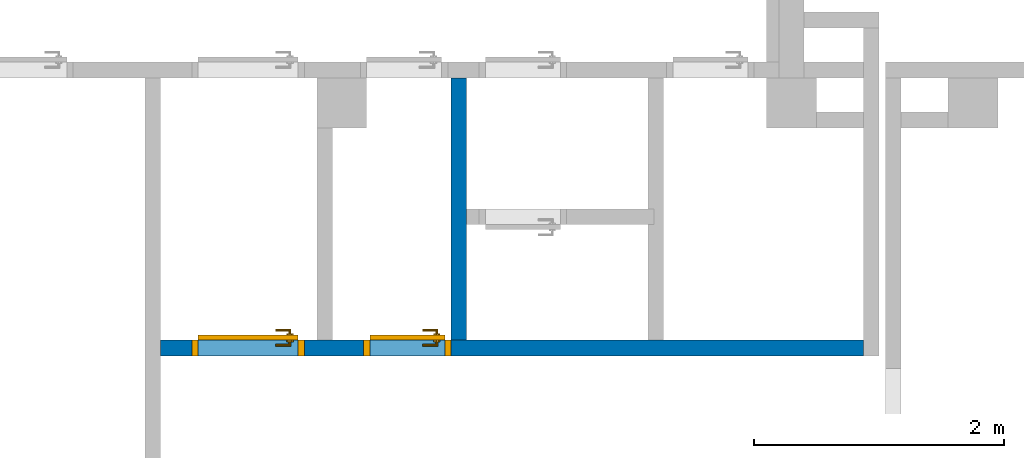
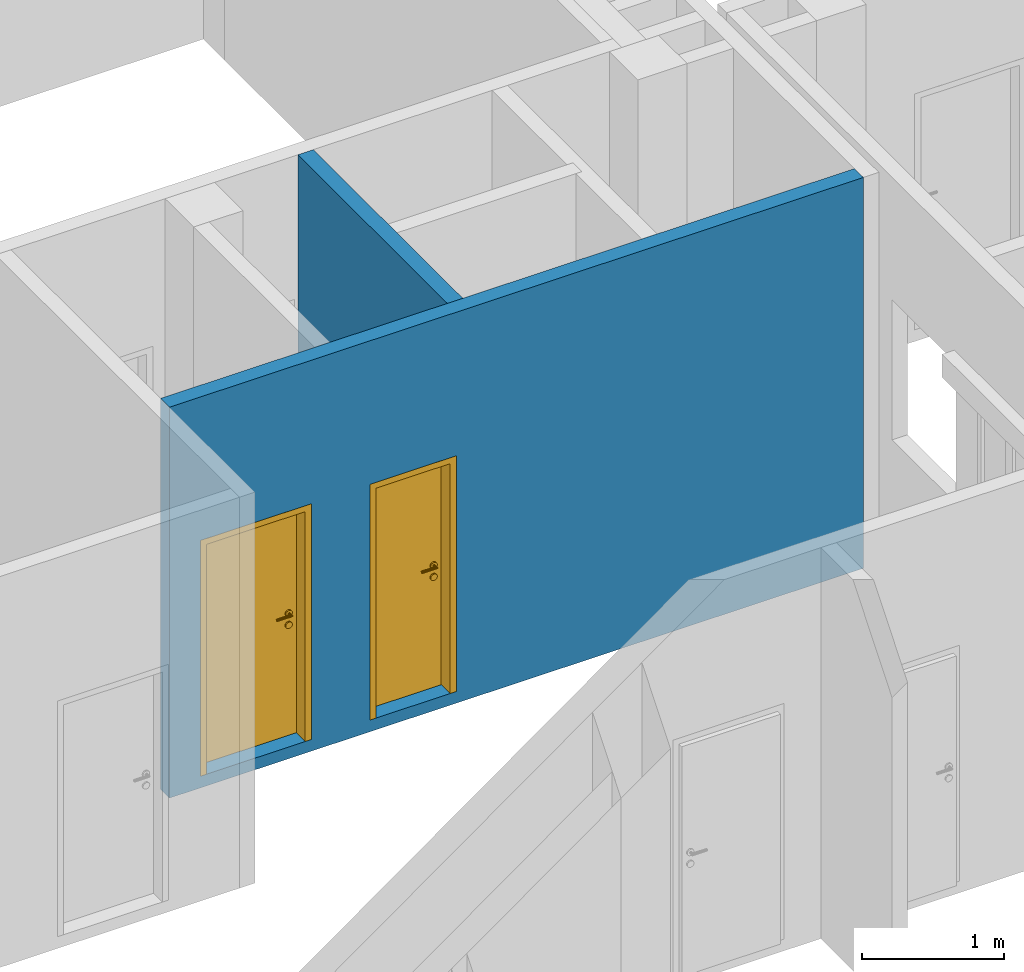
# One storey, part 14 of 37: 2 doors, 2 walls, 2 openings.
"""IFC4 building model written with IfcOpenShell, lengths in metres."""

from ifc_helpers import new_model, entity, si_unit, converted_unit, derived_unit, frame, frame_2d, origin, origin_with_axes, place, context, subcontext, project, spatial, polyline, rectangle, outline, extrude, closed_shell, open_shell, surface_model, source, transform, mapped, material, layer, layer_set, layer_usage, type_object, element, fill, save


model = new_model("IFC4")

# Units and contexts
model_context = context("Model", 3, precision=1e-05, world=origin())
body_context = subcontext(model_context, "Body", "Model", "MODEL_VIEW")
ifc_project = project(units=[si_unit("LENGTHUNIT", "METRE"), si_unit("AREAUNIT", "SQUARE_METRE"), si_unit("VOLUMEUNIT", "CUBIC_METRE"), si_unit("MASSUNIT", "GRAM", prefix="KILO"), converted_unit("PLANEANGLEUNIT", "DEGREE", entity("IfcPlaneAngleMeasure", 0.0174532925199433), si_unit("PLANEANGLEUNIT", "RADIAN"), dimensions=[0, 0, 0, 0, 0, 0, 0]), derived_unit("THERMALTRANSMITTANCEUNIT", [(si_unit("POWERUNIT", "WATT"), 1), (si_unit("THERMODYNAMICTEMPERATUREUNIT", "KELVIN"), -1), (si_unit("LENGTHUNIT", "METRE"), -2)]), derived_unit("VOLUMETRICFLOWRATEUNIT", [(si_unit("LENGTHUNIT", "METRE"), 3), (converted_unit("TIMEUNIT", "hour", entity("IfcTimeMeasure", 3600.0), si_unit("TIMEUNIT", "SECOND"), dimensions=[0, 0, 1, 0, 0, 0, 0]), -1), (si_unit("LENGTHUNIT", "METRE"), -1)])], contexts=[model_context])

# Site, building, storey
site_placement = place(None, origin())
site = spatial("IfcSite", under=ifc_project, at=site_placement, Name="3. ASŘ", CompositionType="ELEMENT")
building_placement = place(site_placement, origin())
building = spatial("IfcBuilding", under=site, at=building_placement, Name="Pavilon B", CompositionType="ELEMENT")
storey_placement = place(building_placement, origin())
storey = spatial("IfcBuildingStorey", under=building, at=storey_placement, Name="Půdorys 1.NP", CompositionType="ELEMENT", Elevation=0.0)

# Wall
ifc_material_1 = material(Name="ZDIVO Z CDm")
ifc_layer_1 = layer(ifc_material_1, 0.125)
ifc_layer_set_1 = layer_set([ifc_layer_1])
ifc_layer_usage_1 = layer_usage(ifc_layer_set_1, "AXIS2", "POSITIVE", 0.0)
wall_1_placement = place(storey_placement, frame((29.075, -21.4, -0.1), z_axis=(0.0, 0.0, 1.0), x_axis=(0.0, -1.0, 0.0)))
element("IfcWall", 1, at=wall_1_placement, inside=storey, material=ifc_layer_usage_1, Name="ZDIVO Z CDm", context=body_context, shape_type="SweptSolid", body=[
    extrude(rectangle(XDim=2.09999999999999, YDim=0.125, at=frame_2d((1.05, 0.0625), x_axis=(1.0, 0.0))), origin_with_axes(), (0.0, 0.0, 1.0), 3.35),
])

# Wall, openings, doors
ifc_material_2 = material(Name="ZDIVO Z CDm")
ifc_layer_2 = layer(ifc_material_2, 0.125)
ifc_layer_set_2 = layer_set([ifc_layer_2])
ifc_layer_usage_2 = layer_usage(ifc_layer_set_2, "AXIS2", "POSITIVE", 0.0)
wall_2_placement = place(storey_placement, frame((32.375, -23.5, -0.1), z_axis=(0.0, 0.0, 1.0), x_axis=(-1.0, 0.0, 0.0)))
wall_2 = element("IfcWall", 2, at=wall_2_placement, inside=storey, material=ifc_layer_usage_2, Name="ZDIVO Z CDm", context=body_context, shape_type="SweptSolid", body=[
    extrude(rectangle(XDim=5.625, YDim=0.125, at=frame_2d((2.8125, 0.0625), x_axis=(1.0, 0.0))), origin_with_axes(), (0.0, 0.0, 1.0), 3.35),
])
opening_1_placement = place(wall_2_placement, frame((4.47499999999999, 0.0, 0.1), z_axis=(0.0, 1.0, 0.0), x_axis=(0.0, 0.0, 1.0)))
opening_1 = element("IfcOpeningElement", 3, at=opening_1_placement, cuts=wall_2, Name="Dveřní otvor", ObjectType="Opening", context=body_context, shape_type="SweptSolid", body=[
    extrude(outline(polyline([(0.0, 0.9), (2.02, 0.9), (2.02, 0.0), (0.0, 0.0), (0.0, 0.9)])), origin_with_axes(), (0.0, 0.0, 1.0), 0.125),
])
opening_2_placement = place(wall_2_placement, frame((3.3, 0.0, 0.1), z_axis=(0.0, 1.0, 0.0), x_axis=(0.0, 0.0, 1.0)))
opening_2 = element("IfcOpeningElement", 4, at=opening_2_placement, cuts=wall_2, Name="Dveřní otvor", ObjectType="Opening", context=body_context, shape_type="SweptSolid", body=[
    extrude(outline(polyline([(0.0, 0.7), (2.02, 0.7), (2.02, 0.0), (0.0, 0.0), (0.0, 0.7)])), origin_with_axes(), (0.0, 0.0, 1.0), 0.125),
])
door_type_1 = type_object("IfcDoorType", Name="D101", OperationType="NOTDEFINED", ParameterTakesPrecedence=False, PredefinedType="DOOR")
shared_shape_1 = source(origin_with_axes(), body_context, "Body", "SurfaceModel", [
    surface_model("IfcShellBasedSurfaceModel", [(0.0, 0.125, 2.02), (0.0, 0.125, -7.65404249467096e-18), (0.05, 0.125, -7.65404249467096e-18), (0.05, 0.125, 2.02), (0.0, 0.0, 7.65404249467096e-18), (0.0, 2.41584530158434e-16, 2.02), (0.05, 2.41584530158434e-16, 2.02), (0.05, 0.0, 7.65404249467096e-18)], [closed_shell([[[0, 1, 2, 3]], [[4, 5, 6, 7]], [[1, 0, 5, 4]], [[2, 1, 4, 7]], [[3, 2, 7, 6]], [[0, 3, 6, 5]]], orient=[[False], [False], [False], [False], [False], [False]])]),
    surface_model("IfcShellBasedSurfaceModel", [(0.65, 0.125, 2.02), (0.65, 0.125, -7.65404249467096e-18), (0.7, 0.125, -7.65404249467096e-18), (0.7, 0.125, 2.02), (0.65, 0.0, 7.65404249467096e-18), (0.65, 2.41584530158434e-16, 2.02), (0.7, 2.41584530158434e-16, 2.02), (0.7, 0.0, 7.65404249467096e-18)], [closed_shell([[[0, 1, 2, 3]], [[4, 5, 6, 7]], [[1, 0, 5, 4]], [[2, 1, 4, 7]], [[3, 2, 7, 6]], [[0, 3, 6, 5]]], orient=[[False], [False], [False], [False], [False], [False]])]),
    surface_model("IfcShellBasedSurfaceModel", [(0.05, 0.125, 2.02), (0.05, 0.125, 1.97), (0.65, 0.125, 1.97), (0.65, 0.125, 2.02), (0.05, 2.41584530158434e-16, 1.97), (0.05, 2.41584530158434e-16, 2.02), (0.65, 2.41584530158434e-16, 2.02), (0.65, 2.41584530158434e-16, 1.97)], [closed_shell([[[0, 1, 2, 3]], [[4, 5, 6, 7]], [[1, 0, 5, 4]], [[2, 1, 4, 7]], [[3, 2, 7, 6]], [[0, 3, 6, 5]]], orient=[[False], [False], [False], [False], [False], [False]])]),
    surface_model("IfcShellBasedSurfaceModel", [(0.05, 0.165, 1.97), (0.05, 0.165, -1.25526296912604e-17), (0.65, 0.165, -1.25526296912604e-17), (0.65, 0.165, 1.97), (0.05, 0.125, -7.65404249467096e-18), (0.05, 0.125, 1.97), (0.65, 0.125, 1.97), (0.65, 0.125, -7.65404249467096e-18)], [closed_shell([[[0, 1, 2, 3]], [[4, 5, 6, 7]], [[1, 0, 5, 4]], [[2, 1, 4, 7]], [[3, 2, 7, 6]], [[0, 3, 6, 5]]], orient=[[False], [False], [False], [False], [False], [False]])]),
    surface_model("IfcShellBasedSurfaceModel", [(0.608815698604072, 0.125, 0.93625), (0.6125, 0.125, 0.95), (0.608815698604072, 0.125, 0.96375), (0.59875, 0.125, 0.973815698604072), (0.585, 0.125, 0.9775), (0.57125, 0.125, 0.973815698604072), (0.561184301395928, 0.125, 0.96375), (0.5575, 0.125, 0.95), (0.561184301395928, 0.125, 0.93625), (0.57125, 0.125, 0.926184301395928), (0.585, 0.125, 0.9225), (0.59875, 0.125, 0.926184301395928), (0.6125, 0.1125, 0.95), (0.608815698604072, 0.1125, 0.93625), (0.59875, 0.1125, 0.926184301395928), (0.585, 0.1125, 0.9225), (0.57125, 0.1125, 0.926184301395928), (0.561184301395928, 0.1125, 0.93625), (0.5575, 0.1125, 0.95), (0.561184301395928, 0.1125, 0.96375), (0.57125, 0.1125, 0.973815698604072), (0.585, 0.1125, 0.9775), (0.59875, 0.1125, 0.973815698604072), (0.608815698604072, 0.1125, 0.96375)], [closed_shell([[[0, 1, 2, 3, 4, 5, 6, 7, 8, 9, 10, 11]], [[12, 13, 14, 15, 16, 17, 18, 19, 20, 21, 22, 23]], [[1, 0, 13, 12]], [[2, 1, 12, 23]], [[3, 2, 23, 22]], [[4, 3, 22, 21]], [[5, 4, 21, 20]], [[6, 5, 20, 19]], [[7, 6, 19, 18]], [[8, 7, 18, 17]], [[9, 8, 17, 16]], [[10, 9, 16, 15]], [[11, 10, 15, 14]], [[0, 11, 14, 13]]], orient=[[False], [False], [False], [False], [False], [False], [False], [False], [False], [False], [False], [False], [False], [False]])]),
    surface_model("IfcShellBasedSurfaceModel", [(0.608815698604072, 0.125, 1.03625), (0.6125, 0.125, 1.05), (0.608815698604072, 0.125, 1.06375), (0.59875, 0.125, 1.07381569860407), (0.585, 0.125, 1.0775), (0.57125, 0.125, 1.07381569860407), (0.561184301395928, 0.125, 1.06375), (0.5575, 0.125, 1.05), (0.561184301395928, 0.125, 1.03625), (0.57125, 0.125, 1.02618430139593), (0.585, 0.125, 1.0225), (0.59875, 0.125, 1.02618430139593), (0.6125, 0.1125, 1.05), (0.608815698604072, 0.1125, 1.03625), (0.59875, 0.1125, 1.02618430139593), (0.585, 0.1125, 1.0225), (0.57125, 0.1125, 1.02618430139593), (0.561184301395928, 0.1125, 1.03625), (0.5575, 0.1125, 1.05), (0.561184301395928, 0.1125, 1.06375), (0.57125, 0.1125, 1.07381569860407), (0.585, 0.1125, 1.0775), (0.59875, 0.1125, 1.07381569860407), (0.608815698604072, 0.1125, 1.06375)], [closed_shell([[[0, 1, 2, 3, 4, 5, 6, 7, 8, 9, 10, 11]], [[12, 13, 14, 15, 16, 17, 18, 19, 20, 21, 22, 23]], [[1, 0, 13, 12]], [[2, 1, 12, 23]], [[3, 2, 23, 22]], [[4, 3, 22, 21]], [[5, 4, 21, 20]], [[6, 5, 20, 19]], [[7, 6, 19, 18]], [[8, 7, 18, 17]], [[9, 8, 17, 16]], [[10, 9, 16, 15]], [[11, 10, 15, 14]], [[0, 11, 14, 13]]], orient=[[False], [False], [False], [False], [False], [False], [False], [False], [False], [False], [False], [False], [False], [False]])]),
    surface_model("IfcShellBasedSurfaceModel", [(0.585, 0.125, 1.06), (0.58, 0.125, 1.05866025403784), (0.576339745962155, 0.125, 1.055), (0.575, 0.125, 1.05), (0.576339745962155, 0.125, 1.045), (0.58, 0.125, 1.04133974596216), (0.585, 0.125, 1.04), (0.59, 0.125, 1.04133974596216), (0.593660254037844, 0.125, 1.045), (0.595, 0.125, 1.05), (0.593660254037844, 0.125, 1.055), (0.59, 0.125, 1.05866025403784), (0.59, 0.0800000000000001, 1.05866025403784), (0.585, 0.0850000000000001, 1.06), (0.593660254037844, 0.0763397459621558, 1.055), (0.595, 0.0750000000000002, 1.05), (0.593660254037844, 0.0763397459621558, 1.045), (0.59, 0.0800000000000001, 1.04133974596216), (0.585, 0.0850000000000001, 1.04), (0.58, 0.0900000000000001, 1.04133974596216), (0.576339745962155, 0.0936602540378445, 1.045), (0.575, 0.0950000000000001, 1.05), (0.576339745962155, 0.0936602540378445, 1.055), (0.58, 0.0900000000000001, 1.05866025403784), (0.47, 0.0800000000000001, 1.05866025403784), (0.47, 0.0850000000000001, 1.06), (0.47, 0.0763397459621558, 1.055), (0.47, 0.0750000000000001, 1.05), (0.47, 0.0763397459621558, 1.045), (0.47, 0.0800000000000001, 1.04133974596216), (0.47, 0.0850000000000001, 1.04), (0.47, 0.0900000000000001, 1.04133974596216), (0.47, 0.0936602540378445, 1.045), (0.47, 0.0950000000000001, 1.05), (0.47, 0.0936602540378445, 1.055), (0.47, 0.0900000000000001, 1.05866025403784)], [open_shell([[[0, 1, 2, 3, 4, 5, 6, 7, 8, 9, 10, 11]], [[0, 11, 12, 13]], [[11, 10, 14, 12]], [[10, 9, 15, 14]], [[9, 8, 16, 15]], [[8, 7, 17, 16]], [[7, 6, 18, 17]], [[6, 5, 19, 18]], [[5, 4, 20, 19]], [[4, 3, 21, 20]], [[3, 2, 22, 21]], [[2, 1, 23, 22]], [[1, 0, 13, 23]], [[13, 12, 24, 25]], [[12, 14, 26, 24]], [[14, 15, 27, 26]], [[15, 16, 28, 27]], [[16, 17, 29, 28]], [[17, 18, 30, 29]], [[18, 19, 31, 30]], [[19, 20, 32, 31]], [[20, 21, 33, 32]], [[21, 22, 34, 33]], [[22, 23, 35, 34]], [[23, 13, 25, 35]]], orient=[[False], [False], [False], [False], [False], [False], [False], [False], [False], [False], [False], [False], [False], [False], [False], [False], [False], [False], [False], [False], [False], [False], [False], [False], [False]])]),
    surface_model("IfcShellBasedSurfaceModel", [(0.608815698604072, 0.165, 0.93625), (0.59875, 0.165, 0.926184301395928), (0.585, 0.165, 0.9225), (0.57125, 0.165, 0.926184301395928), (0.561184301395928, 0.165, 0.93625), (0.5575, 0.165, 0.95), (0.561184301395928, 0.165, 0.96375), (0.57125, 0.165, 0.973815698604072), (0.585, 0.165, 0.9775), (0.59875, 0.165, 0.973815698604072), (0.608815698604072, 0.165, 0.96375), (0.6125, 0.165, 0.95), (0.6125, 0.1775, 0.95), (0.608815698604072, 0.1775, 0.96375), (0.59875, 0.1775, 0.973815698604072), (0.585, 0.1775, 0.9775), (0.57125, 0.1775, 0.973815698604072), (0.561184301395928, 0.1775, 0.96375), (0.5575, 0.1775, 0.95), (0.561184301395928, 0.1775, 0.93625), (0.57125, 0.1775, 0.926184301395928), (0.585, 0.1775, 0.9225), (0.59875, 0.1775, 0.926184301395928), (0.608815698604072, 0.1775, 0.93625)], [closed_shell([[[0, 1, 2, 3, 4, 5, 6, 7, 8, 9, 10, 11]], [[12, 13, 14, 15, 16, 17, 18, 19, 20, 21, 22, 23]], [[11, 12, 23, 0]], [[10, 13, 12, 11]], [[9, 14, 13, 10]], [[8, 15, 14, 9]], [[7, 16, 15, 8]], [[6, 17, 16, 7]], [[5, 18, 17, 6]], [[4, 19, 18, 5]], [[3, 20, 19, 4]], [[2, 21, 20, 3]], [[1, 22, 21, 2]], [[0, 23, 22, 1]]], orient=[[False], [False], [False], [False], [False], [False], [False], [False], [False], [False], [False], [False], [False], [False]])]),
    surface_model("IfcShellBasedSurfaceModel", [(0.608815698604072, 0.165, 1.03625), (0.59875, 0.165, 1.02618430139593), (0.585, 0.165, 1.0225), (0.57125, 0.165, 1.02618430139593), (0.561184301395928, 0.165, 1.03625), (0.5575, 0.165, 1.05), (0.561184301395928, 0.165, 1.06375), (0.57125, 0.165, 1.07381569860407), (0.585, 0.165, 1.0775), (0.59875, 0.165, 1.07381569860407), (0.608815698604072, 0.165, 1.06375), (0.6125, 0.165, 1.05), (0.6125, 0.1775, 1.05), (0.608815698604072, 0.1775, 1.06375), (0.59875, 0.1775, 1.07381569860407), (0.585, 0.1775, 1.0775), (0.57125, 0.1775, 1.07381569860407), (0.561184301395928, 0.1775, 1.06375), (0.5575, 0.1775, 1.05), (0.561184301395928, 0.1775, 1.03625), (0.57125, 0.1775, 1.02618430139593), (0.585, 0.1775, 1.0225), (0.59875, 0.1775, 1.02618430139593), (0.608815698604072, 0.1775, 1.03625)], [closed_shell([[[0, 1, 2, 3, 4, 5, 6, 7, 8, 9, 10, 11]], [[12, 13, 14, 15, 16, 17, 18, 19, 20, 21, 22, 23]], [[11, 12, 23, 0]], [[10, 13, 12, 11]], [[9, 14, 13, 10]], [[8, 15, 14, 9]], [[7, 16, 15, 8]], [[6, 17, 16, 7]], [[5, 18, 17, 6]], [[4, 19, 18, 5]], [[3, 20, 19, 4]], [[2, 21, 20, 3]], [[1, 22, 21, 2]], [[0, 23, 22, 1]]], orient=[[False], [False], [False], [False], [False], [False], [False], [False], [False], [False], [False], [False], [False], [False]])]),
    surface_model("IfcShellBasedSurfaceModel", [(0.585, 0.165, 1.06), (0.59, 0.165, 1.05866025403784), (0.593660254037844, 0.165, 1.055), (0.595, 0.165, 1.05), (0.593660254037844, 0.165, 1.045), (0.59, 0.165, 1.04133974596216), (0.585, 0.165, 1.04), (0.58, 0.165, 1.04133974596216), (0.576339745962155, 0.165, 1.045), (0.575, 0.165, 1.05), (0.576339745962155, 0.165, 1.055), (0.58, 0.165, 1.05866025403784), (0.585, 0.205, 1.06), (0.59, 0.21, 1.05866025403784), (0.593660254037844, 0.213660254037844, 1.055), (0.595, 0.215, 1.05), (0.593660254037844, 0.213660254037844, 1.045), (0.59, 0.21, 1.04133974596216), (0.585, 0.205, 1.04), (0.58, 0.2, 1.04133974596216), (0.576339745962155, 0.196339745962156, 1.045), (0.575, 0.195, 1.05), (0.576339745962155, 0.196339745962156, 1.055), (0.58, 0.2, 1.05866025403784), (0.47, 0.205, 1.06), (0.47, 0.21, 1.05866025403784), (0.47, 0.213660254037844, 1.055), (0.47, 0.215, 1.05), (0.47, 0.213660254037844, 1.045), (0.47, 0.21, 1.04133974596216), (0.47, 0.205, 1.04), (0.47, 0.2, 1.04133974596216), (0.47, 0.196339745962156, 1.045), (0.47, 0.195, 1.05), (0.47, 0.196339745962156, 1.055), (0.47, 0.2, 1.05866025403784)], [open_shell([[[0, 1, 2, 3, 4, 5, 6, 7, 8, 9, 10, 11]], [[0, 12, 13, 1]], [[1, 13, 14, 2]], [[2, 14, 15, 3]], [[3, 15, 16, 4]], [[4, 16, 17, 5]], [[5, 17, 18, 6]], [[6, 18, 19, 7]], [[7, 19, 20, 8]], [[8, 20, 21, 9]], [[9, 21, 22, 10]], [[10, 22, 23, 11]], [[11, 23, 12, 0]], [[12, 24, 25, 13]], [[13, 25, 26, 14]], [[14, 26, 27, 15]], [[15, 27, 28, 16]], [[16, 28, 29, 17]], [[17, 29, 30, 18]], [[18, 30, 31, 19]], [[19, 31, 32, 20]], [[20, 32, 33, 21]], [[21, 33, 34, 22]], [[22, 34, 35, 23]], [[23, 35, 24, 12]]], orient=[[False], [False], [False], [False], [False], [False], [False], [False], [False], [False], [False], [False], [False], [False], [False], [False], [False], [False], [False], [False], [False], [False], [False], [False], [False]])]),
])
door_1_placement = place(opening_2_placement, frame((0.0, 0.7, 0.125), z_axis=(1.0, 0.0, 0.0), x_axis=(0.0, -1.0, 2.44929359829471e-16)))
door_1 = element("IfcDoor", 5, at=door_1_placement, inside=storey, type_object=door_type_1, Name="D101", OverallHeight=2.02, OverallWidth=0.7, context=body_context, shape_type="MappedRepresentation", body=[
    mapped(shared_shape_1, transform((0.0, 0.0, 0.0), x_axis=(1.0, 0.0, 0.0), y_axis=(0.0, 1.0, 0.0), z_axis=(0.0, 0.0, 1.0), scale=1.0)),
])
fill(opening_2, door_1)
door_type_2 = type_object("IfcDoorType", Name="D101", OperationType="NOTDEFINED", ParameterTakesPrecedence=False, PredefinedType="DOOR")
shared_shape_2 = source(origin_with_axes(), body_context, "Body", "SurfaceModel", [
    surface_model("IfcShellBasedSurfaceModel", [(0.0, 0.125, 2.02), (0.0, 0.125, -7.65404249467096e-18), (0.05, 0.125, -7.65404249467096e-18), (0.05, 0.125, 2.02), (0.0, 0.0, 7.65404249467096e-18), (0.0, 2.41584530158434e-16, 2.02), (0.05, 2.41584530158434e-16, 2.02), (0.05, 0.0, 7.65404249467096e-18)], [closed_shell([[[0, 1, 2, 3]], [[4, 5, 6, 7]], [[1, 0, 5, 4]], [[2, 1, 4, 7]], [[3, 2, 7, 6]], [[0, 3, 6, 5]]], orient=[[False], [False], [False], [False], [False], [False]])]),
    surface_model("IfcShellBasedSurfaceModel", [(0.85, 0.125, 2.02), (0.85, 0.125, -7.65404249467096e-18), (0.9, 0.125, -7.65404249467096e-18), (0.9, 0.125, 2.02), (0.85, 0.0, 7.65404249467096e-18), (0.85, 2.41584530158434e-16, 2.02), (0.9, 2.41584530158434e-16, 2.02), (0.9, 0.0, 7.65404249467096e-18)], [closed_shell([[[0, 1, 2, 3]], [[4, 5, 6, 7]], [[1, 0, 5, 4]], [[2, 1, 4, 7]], [[3, 2, 7, 6]], [[0, 3, 6, 5]]], orient=[[False], [False], [False], [False], [False], [False]])]),
    surface_model("IfcShellBasedSurfaceModel", [(0.05, 0.125, 2.02), (0.05, 0.125, 1.97), (0.85, 0.125, 1.97), (0.85, 0.125, 2.02), (0.05, 2.41584530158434e-16, 1.97), (0.05, 2.41584530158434e-16, 2.02), (0.85, 2.41584530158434e-16, 2.02), (0.85, 2.41584530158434e-16, 1.97)], [closed_shell([[[0, 1, 2, 3]], [[4, 5, 6, 7]], [[1, 0, 5, 4]], [[2, 1, 4, 7]], [[3, 2, 7, 6]], [[0, 3, 6, 5]]], orient=[[False], [False], [False], [False], [False], [False]])]),
    surface_model("IfcShellBasedSurfaceModel", [(0.05, 0.165, 1.97), (0.05, 0.165, -1.25526296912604e-17), (0.85, 0.165, -1.25526296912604e-17), (0.85, 0.165, 1.97), (0.05, 0.125, -7.65404249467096e-18), (0.05, 0.125, 1.97), (0.85, 0.125, 1.97), (0.85, 0.125, -7.65404249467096e-18)], [closed_shell([[[0, 1, 2, 3]], [[4, 5, 6, 7]], [[1, 0, 5, 4]], [[2, 1, 4, 7]], [[3, 2, 7, 6]], [[0, 3, 6, 5]]], orient=[[False], [False], [False], [False], [False], [False]])]),
    surface_model("IfcShellBasedSurfaceModel", [(0.808815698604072, 0.125, 0.93625), (0.8125, 0.125, 0.95), (0.808815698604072, 0.125, 0.96375), (0.79875, 0.125, 0.973815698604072), (0.785, 0.125, 0.9775), (0.77125, 0.125, 0.973815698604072), (0.761184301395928, 0.125, 0.96375), (0.7575, 0.125, 0.95), (0.761184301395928, 0.125, 0.93625), (0.77125, 0.125, 0.926184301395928), (0.785, 0.125, 0.9225), (0.79875, 0.125, 0.926184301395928), (0.8125, 0.1125, 0.95), (0.808815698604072, 0.1125, 0.93625), (0.79875, 0.1125, 0.926184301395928), (0.785, 0.1125, 0.9225), (0.77125, 0.1125, 0.926184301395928), (0.761184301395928, 0.1125, 0.93625), (0.7575, 0.1125, 0.95), (0.761184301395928, 0.1125, 0.96375), (0.77125, 0.1125, 0.973815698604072), (0.785, 0.1125, 0.9775), (0.79875, 0.1125, 0.973815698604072), (0.808815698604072, 0.1125, 0.96375)], [closed_shell([[[0, 1, 2, 3, 4, 5, 6, 7, 8, 9, 10, 11]], [[12, 13, 14, 15, 16, 17, 18, 19, 20, 21, 22, 23]], [[1, 0, 13, 12]], [[2, 1, 12, 23]], [[3, 2, 23, 22]], [[4, 3, 22, 21]], [[5, 4, 21, 20]], [[6, 5, 20, 19]], [[7, 6, 19, 18]], [[8, 7, 18, 17]], [[9, 8, 17, 16]], [[10, 9, 16, 15]], [[11, 10, 15, 14]], [[0, 11, 14, 13]]], orient=[[False], [False], [False], [False], [False], [False], [False], [False], [False], [False], [False], [False], [False], [False]])]),
    surface_model("IfcShellBasedSurfaceModel", [(0.808815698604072, 0.125, 1.03625), (0.8125, 0.125, 1.05), (0.808815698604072, 0.125, 1.06375), (0.79875, 0.125, 1.07381569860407), (0.785, 0.125, 1.0775), (0.77125, 0.125, 1.07381569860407), (0.761184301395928, 0.125, 1.06375), (0.7575, 0.125, 1.05), (0.761184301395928, 0.125, 1.03625), (0.77125, 0.125, 1.02618430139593), (0.785, 0.125, 1.0225), (0.79875, 0.125, 1.02618430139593), (0.8125, 0.1125, 1.05), (0.808815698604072, 0.1125, 1.03625), (0.79875, 0.1125, 1.02618430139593), (0.785, 0.1125, 1.0225), (0.77125, 0.1125, 1.02618430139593), (0.761184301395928, 0.1125, 1.03625), (0.7575, 0.1125, 1.05), (0.761184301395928, 0.1125, 1.06375), (0.77125, 0.1125, 1.07381569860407), (0.785, 0.1125, 1.0775), (0.79875, 0.1125, 1.07381569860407), (0.808815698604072, 0.1125, 1.06375)], [closed_shell([[[0, 1, 2, 3, 4, 5, 6, 7, 8, 9, 10, 11]], [[12, 13, 14, 15, 16, 17, 18, 19, 20, 21, 22, 23]], [[1, 0, 13, 12]], [[2, 1, 12, 23]], [[3, 2, 23, 22]], [[4, 3, 22, 21]], [[5, 4, 21, 20]], [[6, 5, 20, 19]], [[7, 6, 19, 18]], [[8, 7, 18, 17]], [[9, 8, 17, 16]], [[10, 9, 16, 15]], [[11, 10, 15, 14]], [[0, 11, 14, 13]]], orient=[[False], [False], [False], [False], [False], [False], [False], [False], [False], [False], [False], [False], [False], [False]])]),
    surface_model("IfcShellBasedSurfaceModel", [(0.785, 0.125, 1.06), (0.78, 0.125, 1.05866025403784), (0.776339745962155, 0.125, 1.055), (0.775, 0.125, 1.05), (0.776339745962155, 0.125, 1.045), (0.78, 0.125, 1.04133974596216), (0.785, 0.125, 1.04), (0.79, 0.125, 1.04133974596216), (0.793660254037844, 0.125, 1.045), (0.795, 0.125, 1.05), (0.793660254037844, 0.125, 1.055), (0.79, 0.125, 1.05866025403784), (0.79, 0.0800000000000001, 1.05866025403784), (0.785, 0.0850000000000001, 1.06), (0.793660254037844, 0.0763397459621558, 1.055), (0.795, 0.0750000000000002, 1.05), (0.793660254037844, 0.0763397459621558, 1.045), (0.79, 0.0800000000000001, 1.04133974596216), (0.785, 0.0850000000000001, 1.04), (0.78, 0.0900000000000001, 1.04133974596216), (0.776339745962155, 0.0936602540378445, 1.045), (0.775, 0.0950000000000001, 1.05), (0.776339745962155, 0.0936602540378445, 1.055), (0.78, 0.0900000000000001, 1.05866025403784), (0.67, 0.0800000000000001, 1.05866025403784), (0.67, 0.0850000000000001, 1.06), (0.67, 0.0763397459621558, 1.055), (0.67, 0.0750000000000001, 1.05), (0.67, 0.0763397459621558, 1.045), (0.67, 0.0800000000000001, 1.04133974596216), (0.67, 0.0850000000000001, 1.04), (0.67, 0.0900000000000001, 1.04133974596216), (0.67, 0.0936602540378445, 1.045), (0.67, 0.0950000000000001, 1.05), (0.67, 0.0936602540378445, 1.055), (0.67, 0.0900000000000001, 1.05866025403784)], [open_shell([[[0, 1, 2, 3, 4, 5, 6, 7, 8, 9, 10, 11]], [[0, 11, 12, 13]], [[11, 10, 14, 12]], [[10, 9, 15, 14]], [[9, 8, 16, 15]], [[8, 7, 17, 16]], [[7, 6, 18, 17]], [[6, 5, 19, 18]], [[5, 4, 20, 19]], [[4, 3, 21, 20]], [[3, 2, 22, 21]], [[2, 1, 23, 22]], [[1, 0, 13, 23]], [[13, 12, 24, 25]], [[12, 14, 26, 24]], [[14, 15, 27, 26]], [[15, 16, 28, 27]], [[16, 17, 29, 28]], [[17, 18, 30, 29]], [[18, 19, 31, 30]], [[19, 20, 32, 31]], [[20, 21, 33, 32]], [[21, 22, 34, 33]], [[22, 23, 35, 34]], [[23, 13, 25, 35]]], orient=[[False], [False], [False], [False], [False], [False], [False], [False], [False], [False], [False], [False], [False], [False], [False], [False], [False], [False], [False], [False], [False], [False], [False], [False], [False]])]),
    surface_model("IfcShellBasedSurfaceModel", [(0.808815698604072, 0.165, 0.93625), (0.79875, 0.165, 0.926184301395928), (0.785, 0.165, 0.9225), (0.77125, 0.165, 0.926184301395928), (0.761184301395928, 0.165, 0.93625), (0.7575, 0.165, 0.95), (0.761184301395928, 0.165, 0.96375), (0.77125, 0.165, 0.973815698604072), (0.785, 0.165, 0.9775), (0.79875, 0.165, 0.973815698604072), (0.808815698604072, 0.165, 0.96375), (0.8125, 0.165, 0.95), (0.8125, 0.1775, 0.95), (0.808815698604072, 0.1775, 0.96375), (0.79875, 0.1775, 0.973815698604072), (0.785, 0.1775, 0.9775), (0.77125, 0.1775, 0.973815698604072), (0.761184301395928, 0.1775, 0.96375), (0.7575, 0.1775, 0.95), (0.761184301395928, 0.1775, 0.93625), (0.77125, 0.1775, 0.926184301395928), (0.785, 0.1775, 0.9225), (0.79875, 0.1775, 0.926184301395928), (0.808815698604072, 0.1775, 0.93625)], [closed_shell([[[0, 1, 2, 3, 4, 5, 6, 7, 8, 9, 10, 11]], [[12, 13, 14, 15, 16, 17, 18, 19, 20, 21, 22, 23]], [[11, 12, 23, 0]], [[10, 13, 12, 11]], [[9, 14, 13, 10]], [[8, 15, 14, 9]], [[7, 16, 15, 8]], [[6, 17, 16, 7]], [[5, 18, 17, 6]], [[4, 19, 18, 5]], [[3, 20, 19, 4]], [[2, 21, 20, 3]], [[1, 22, 21, 2]], [[0, 23, 22, 1]]], orient=[[False], [False], [False], [False], [False], [False], [False], [False], [False], [False], [False], [False], [False], [False]])]),
    surface_model("IfcShellBasedSurfaceModel", [(0.808815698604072, 0.165, 1.03625), (0.79875, 0.165, 1.02618430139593), (0.785, 0.165, 1.0225), (0.77125, 0.165, 1.02618430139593), (0.761184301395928, 0.165, 1.03625), (0.7575, 0.165, 1.05), (0.761184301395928, 0.165, 1.06375), (0.77125, 0.165, 1.07381569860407), (0.785, 0.165, 1.0775), (0.79875, 0.165, 1.07381569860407), (0.808815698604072, 0.165, 1.06375), (0.8125, 0.165, 1.05), (0.8125, 0.1775, 1.05), (0.808815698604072, 0.1775, 1.06375), (0.79875, 0.1775, 1.07381569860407), (0.785, 0.1775, 1.0775), (0.77125, 0.1775, 1.07381569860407), (0.761184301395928, 0.1775, 1.06375), (0.7575, 0.1775, 1.05), (0.761184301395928, 0.1775, 1.03625), (0.77125, 0.1775, 1.02618430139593), (0.785, 0.1775, 1.0225), (0.79875, 0.1775, 1.02618430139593), (0.808815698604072, 0.1775, 1.03625)], [closed_shell([[[0, 1, 2, 3, 4, 5, 6, 7, 8, 9, 10, 11]], [[12, 13, 14, 15, 16, 17, 18, 19, 20, 21, 22, 23]], [[11, 12, 23, 0]], [[10, 13, 12, 11]], [[9, 14, 13, 10]], [[8, 15, 14, 9]], [[7, 16, 15, 8]], [[6, 17, 16, 7]], [[5, 18, 17, 6]], [[4, 19, 18, 5]], [[3, 20, 19, 4]], [[2, 21, 20, 3]], [[1, 22, 21, 2]], [[0, 23, 22, 1]]], orient=[[False], [False], [False], [False], [False], [False], [False], [False], [False], [False], [False], [False], [False], [False]])]),
    surface_model("IfcShellBasedSurfaceModel", [(0.785, 0.165, 1.06), (0.79, 0.165, 1.05866025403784), (0.793660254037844, 0.165, 1.055), (0.795, 0.165, 1.05), (0.793660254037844, 0.165, 1.045), (0.79, 0.165, 1.04133974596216), (0.785, 0.165, 1.04), (0.78, 0.165, 1.04133974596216), (0.776339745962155, 0.165, 1.045), (0.775, 0.165, 1.05), (0.776339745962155, 0.165, 1.055), (0.78, 0.165, 1.05866025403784), (0.785, 0.205, 1.06), (0.79, 0.21, 1.05866025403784), (0.793660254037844, 0.213660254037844, 1.055), (0.795, 0.215, 1.05), (0.793660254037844, 0.213660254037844, 1.045), (0.79, 0.21, 1.04133974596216), (0.785, 0.205, 1.04), (0.78, 0.2, 1.04133974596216), (0.776339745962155, 0.196339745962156, 1.045), (0.775, 0.195, 1.05), (0.776339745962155, 0.196339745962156, 1.055), (0.78, 0.2, 1.05866025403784), (0.67, 0.205, 1.06), (0.67, 0.21, 1.05866025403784), (0.67, 0.213660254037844, 1.055), (0.67, 0.215, 1.05), (0.67, 0.213660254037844, 1.045), (0.67, 0.21, 1.04133974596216), (0.67, 0.205, 1.04), (0.67, 0.2, 1.04133974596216), (0.67, 0.196339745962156, 1.045), (0.67, 0.195, 1.05), (0.67, 0.196339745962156, 1.055), (0.67, 0.2, 1.05866025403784)], [open_shell([[[0, 1, 2, 3, 4, 5, 6, 7, 8, 9, 10, 11]], [[0, 12, 13, 1]], [[1, 13, 14, 2]], [[2, 14, 15, 3]], [[3, 15, 16, 4]], [[4, 16, 17, 5]], [[5, 17, 18, 6]], [[6, 18, 19, 7]], [[7, 19, 20, 8]], [[8, 20, 21, 9]], [[9, 21, 22, 10]], [[10, 22, 23, 11]], [[11, 23, 12, 0]], [[12, 24, 25, 13]], [[13, 25, 26, 14]], [[14, 26, 27, 15]], [[15, 27, 28, 16]], [[16, 28, 29, 17]], [[17, 29, 30, 18]], [[18, 30, 31, 19]], [[19, 31, 32, 20]], [[20, 32, 33, 21]], [[21, 33, 34, 22]], [[22, 34, 35, 23]], [[23, 35, 24, 12]]], orient=[[False], [False], [False], [False], [False], [False], [False], [False], [False], [False], [False], [False], [False], [False], [False], [False], [False], [False], [False], [False], [False], [False], [False], [False], [False]])]),
])
door_2_placement = place(opening_1_placement, frame((0.0, 0.9, 0.125), z_axis=(1.0, 0.0, 0.0), x_axis=(0.0, -1.0, 2.44929359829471e-16)))
door_2 = element("IfcDoor", 6, at=door_2_placement, inside=storey, type_object=door_type_2, Name="D101", OverallHeight=2.02, OverallWidth=0.9, context=body_context, shape_type="MappedRepresentation", body=[
    mapped(shared_shape_2, transform((0.0, 0.0, 0.0), x_axis=(1.0, 0.0, 0.0), y_axis=(0.0, 1.0, 0.0), z_axis=(0.0, 0.0, 1.0), scale=1.0)),
])
fill(opening_1, door_2)

save(model, "model.ifc")
